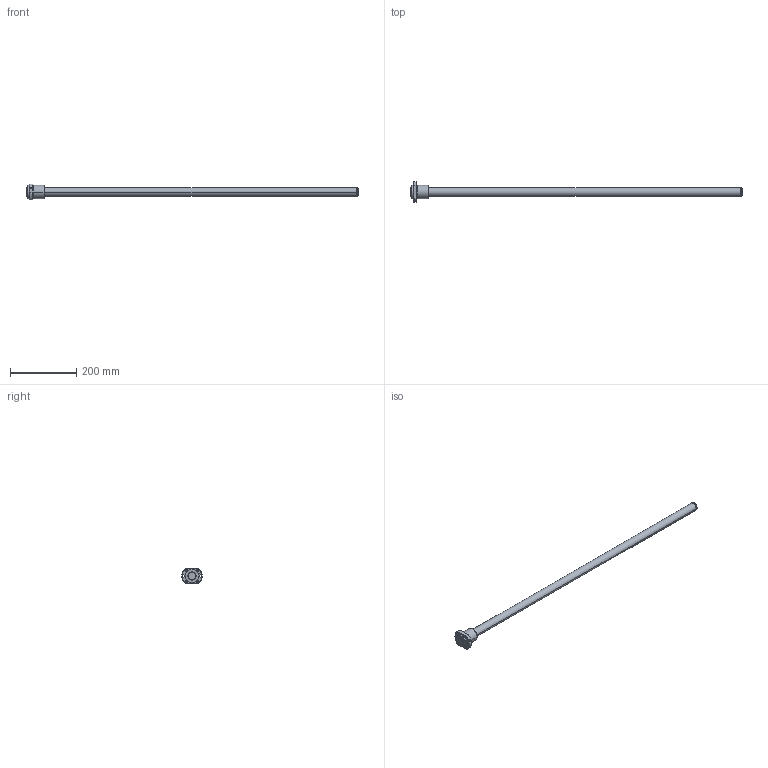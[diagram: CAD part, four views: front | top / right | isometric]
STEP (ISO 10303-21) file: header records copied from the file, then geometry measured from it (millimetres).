
FILE_DESCRIPTION( ( '' ), '1' );
FILE_NAME( 'C:/Users/v3-771-32344/Desktop/EBB STEP/EBB 2505-3 RRNone+1000L C7(940070)-ebb3.stp', '2015-08-27T13:36:54', ( '' ), ( '' ), ' ', ' ', ' ' );
FILE_SCHEMA( ( 'CONFIG_CONTROL_DESIGN' ) );
Length unit declared in the file: millimetre
Products named in the file (2): 1; 2
Bounding box: 1000 x 62 x 48 mm (x, y, z)
Volume: 539824.3 mm3; surface area: 96354.4 mm2
Topology: 2 solids, 2 shells, 67 faces, 155 edges, 99 vertices
Faces by surface type: cylinder 36, cone 18, plane 13
Entity records: 2167 total; most frequent: CARTESIAN_POINT 473, DIRECTION 366, ORIENTED_EDGE 310, AXIS2_PLACEMENT_3D 155, EDGE_CURVE 155, VERTEX_POINT 99, EDGE_LOOP 90, CIRCLE 86
